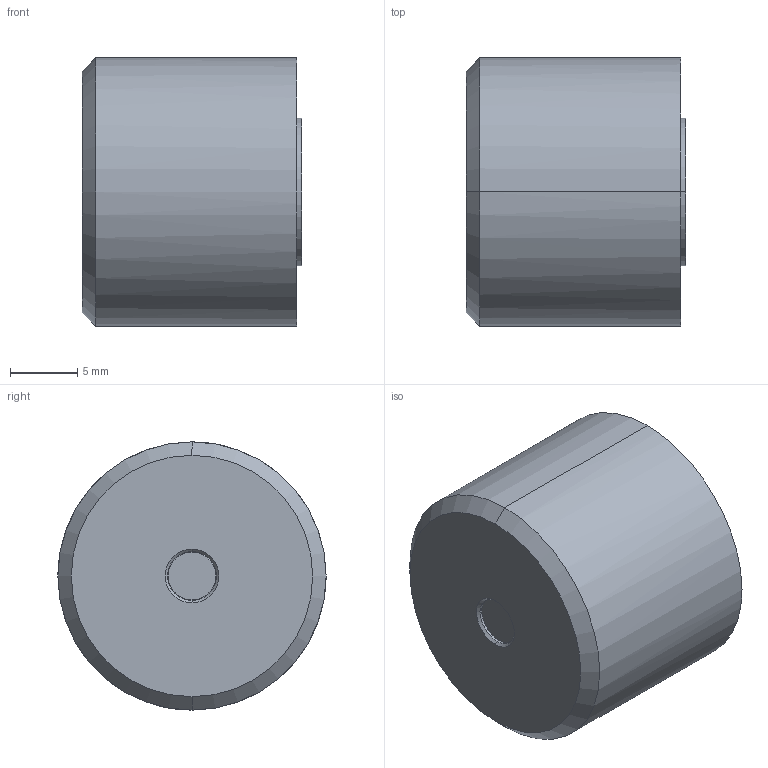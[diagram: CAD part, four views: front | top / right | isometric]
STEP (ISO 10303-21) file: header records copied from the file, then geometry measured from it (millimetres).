
FILE_DESCRIPTION(('CATIA V5 STEP Exchange'),'2;1');
FILE_NAME('C:\Users\Utente\Desktop\IO LAVORO\3D X SITO CF\X SITO\PLASTICA\D374\D374-20-A-DM-FA.stp','2021-03-30T10:25:54+00:00',('none'),('none'),'CATIA Version 5 Release 20 GA (IN-10)','CATIA V5 STEP AP203','none');
FILE_SCHEMA(('CONFIG_CONTROL_DESIGN'));
Length unit declared in the file: millimetre
Products named in the file (1): D374-20-A-DM-FA
Assembly tree (2 placements, depth 2):
  D374-20-A-DM-FA
    #58
    #6803
Bounding box: 16.35 x 20 x 20 mm (x, y, z)
Volume: 4304 mm3; surface area: 2582.3 mm2
Topology: 2 solids, 2 shells, 222 faces, 612 edges, 420 vertices
Faces by surface type: plane 137, cylinder 77, cone 8
Entity records: 7888 total; most frequent: CARTESIAN_POINT 2257, ORIENTED_EDGE 1224, DIRECTION 982, EDGE_CURVE 612, VERTEX_POINT 420, VECTOR 406, LINE 406, AXIS2_PLACEMENT_3D 351
